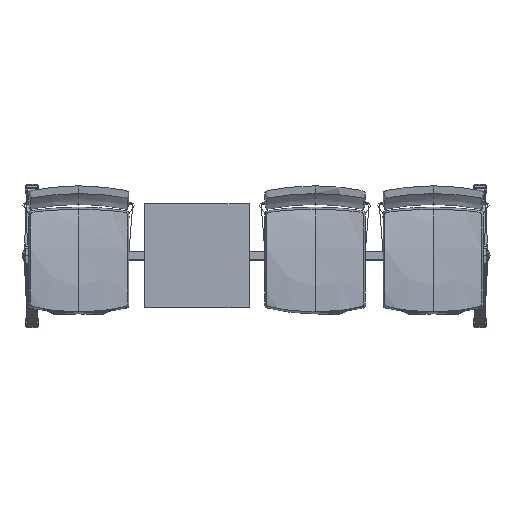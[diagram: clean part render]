
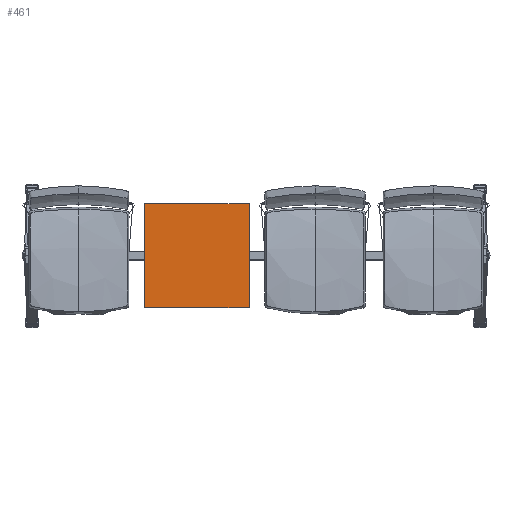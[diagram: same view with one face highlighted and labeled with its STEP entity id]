
A CAD part, top view. The second image highlights one B-rep face of the part: STEP entity #461.
In plain terms, the highlighted planar face has unit normal (0, 0, 1).
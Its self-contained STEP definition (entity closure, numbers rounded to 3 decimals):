
#461=ADVANCED_FACE('',(#963),#6461,.T.);
#963=FACE_OUTER_BOUND('',#1465,.T.);
#1465=EDGE_LOOP('',(#3052,#3053,#3054,#3055));
#3052=ORIENTED_EDGE('',*,*,#4645,.T.);
#3053=ORIENTED_EDGE('',*,*,#4647,.T.);
#3054=ORIENTED_EDGE('',*,*,#4649,.T.);
#3055=ORIENTED_EDGE('',*,*,#4651,.T.);
#4645=EDGE_CURVE('',#5771,#5772,#7309,.T.);
#4647=EDGE_CURVE('',#5772,#5773,#7311,.T.);
#4649=EDGE_CURVE('',#5773,#5774,#7313,.T.);
#4651=EDGE_CURVE('',#5774,#5771,#7315,.T.);
#5771=VERTEX_POINT('',#11917);
#5772=VERTEX_POINT('',#11918);
#5773=VERTEX_POINT('',#11919);
#5774=VERTEX_POINT('',#11920);
#6461=PLANE('',#7832);
#7309=B_SPLINE_CURVE_WITH_KNOTS('',1,(#11931,#11932),.UNSPECIFIED.,.F.,
 .F.,(2,2),(0.,450.),.UNSPECIFIED.);
#7311=B_SPLINE_CURVE_WITH_KNOTS('',1,(#11935,#11936),.UNSPECIFIED.,.F.,
 .F.,(2,2),(450.,900.),.UNSPECIFIED.);
#7313=B_SPLINE_CURVE_WITH_KNOTS('',1,(#11939,#11940),.UNSPECIFIED.,.F.,
 .F.,(2,2),(900.,1350.),.UNSPECIFIED.);
#7315=B_SPLINE_CURVE_WITH_KNOTS('',1,(#11943,#11944),.UNSPECIFIED.,.F.,
 .F.,(2,2),(1350.,1800.),.UNSPECIFIED.);
#7832=AXIS2_PLACEMENT_3D('',#11912,#8088,$);
#8088=DIRECTION('',(0.,0.,1.));
#11912=CARTESIAN_POINT('',(-480.,-225.,408.));
#11917=CARTESIAN_POINT('',(-480.,-225.,408.));
#11918=CARTESIAN_POINT('',(-30.,-225.,408.));
#11919=CARTESIAN_POINT('',(-30.,225.,408.));
#11920=CARTESIAN_POINT('',(-480.,225.,408.));
#11931=CARTESIAN_POINT('',(-480.,-225.,408.));
#11932=CARTESIAN_POINT('',(-30.,-225.,408.));
#11935=CARTESIAN_POINT('',(-30.,-225.,408.));
#11936=CARTESIAN_POINT('',(-30.,225.,408.));
#11939=CARTESIAN_POINT('',(-30.,225.,408.));
#11940=CARTESIAN_POINT('',(-480.,225.,408.));
#11943=CARTESIAN_POINT('',(-480.,225.,408.));
#11944=CARTESIAN_POINT('',(-480.,-225.,408.));
